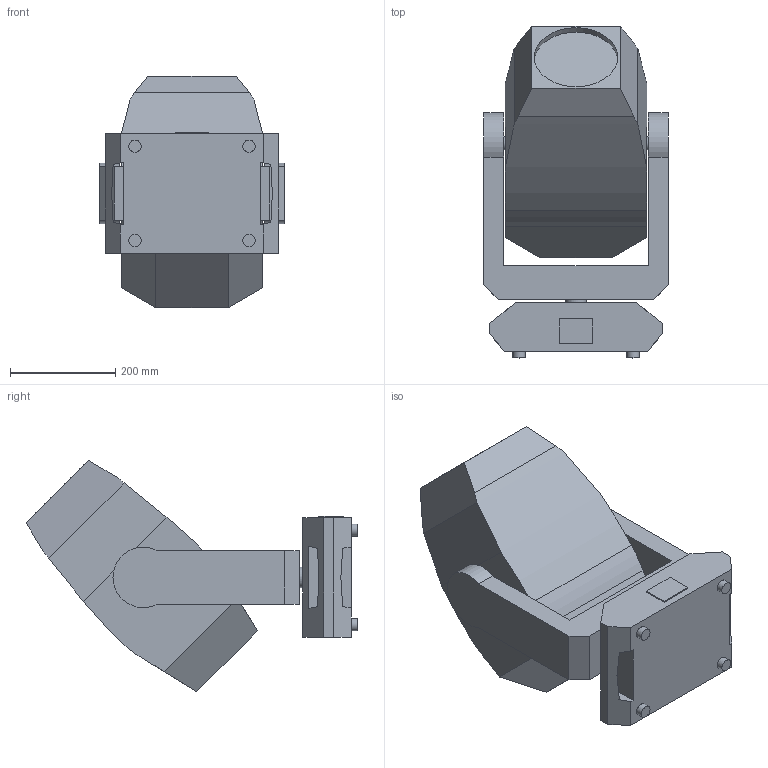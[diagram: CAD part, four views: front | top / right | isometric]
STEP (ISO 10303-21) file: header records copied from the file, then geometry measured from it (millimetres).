
FILE_DESCRIPTION(/* description */ ('Unknown'),/* implementation_level */ '2;1');
FILE_NAME(/* name */ 'MAVERICKFORCEXPROFILE_45.stp',/* time_stamp */ '2025-06-23T16:19:54-04:00',/* author */ ('chenry'),/* organization */ (''),/* preprocessor_version */ 'ST-DEVELOPER v20',/* originating_system */ 'Autodesk Inventor 2024',/* authorisation */ '');
FILE_SCHEMA (('AUTOMOTIVE_DESIGN { 1 0 10303 214 3 1 1 }'));
Length unit declared in the file: millimetre
Products named in the file (4): M-350 LED PROFILE-01; bASE; aRM; hEAD
Assembly tree (3 placements, depth 2):
  M-350 LED PROFILE-01
    bASE
    aRM
    hEAD
Bounding box: 351.47 x 631.97 x 440.6 mm (x, y, z)
Volume: 33857713.5 mm3; surface area: 1034094.3 mm2
Topology: 3 solids, 3 shells, 79 faces, 192 edges, 128 vertices
Faces by surface type: plane 61, cylinder 14, bspline 4
Full cylindrical faces by diameter (mm): 23.335 x4, 25.036 x2, 26 x2, 39 x1, 158.955 x1
Entity records: 2678 total; most frequent: CARTESIAN_POINT 642, ORIENTED_EDGE 384, DIRECTION 376, EDGE_CURVE 192, LINE 148, VECTOR 148, VERTEX_POINT 128, AXIS2_PLACEMENT_3D 114
